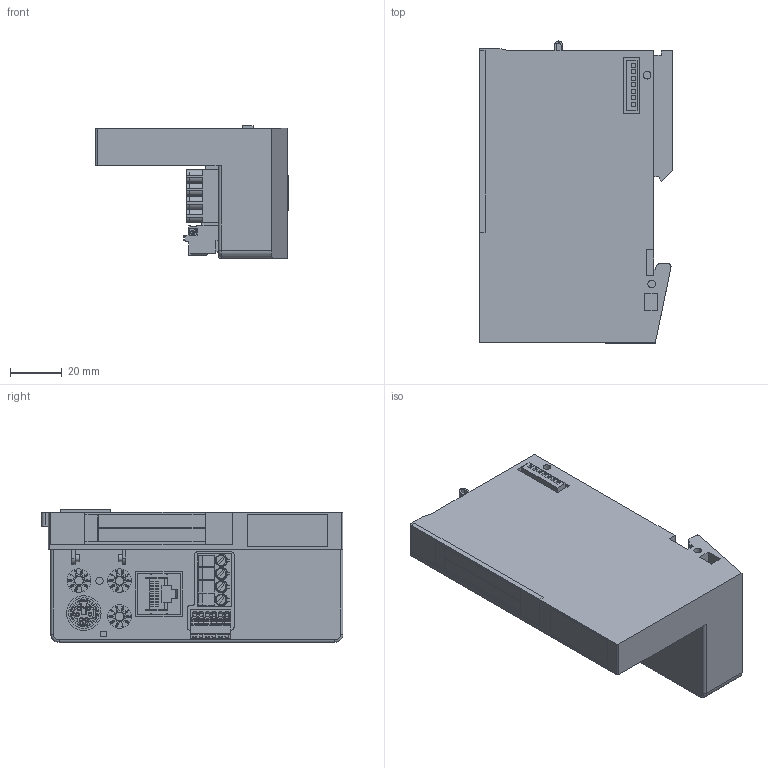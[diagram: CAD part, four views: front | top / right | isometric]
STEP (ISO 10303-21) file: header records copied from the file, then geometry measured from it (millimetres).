
FILE_DESCRIPTION((''),'2;1');
FILE_NAME('C:\TurckZip\BL20-PG-EN-DN-JA.stp','2008-08-29T11:49:48',('IKOROL'),(''),'Autodesk Inventor 2008','Autodesk Inventor 2008','');
FILE_SCHEMA(('CONFIG_CONTROL_DESIGN'));
Length unit declared in the file: millimetre
Products named in the file (1): Part3
Bounding box: 74.5 x 116.95 x 51.5 mm (x, y, z)
Volume: 202913.9 mm3; surface area: 43632.5 mm2
Topology: 7 solids, 7 shells, 1742 faces, 4493 edges, 2967 vertices
Faces by surface type: plane 1244, bspline 252, cylinder 223, cone 18, torus 5
Full cylindrical faces by diameter (mm): 0.457 x1, 1 x6, 1.3 x4, 1.5 x6, 1.6 x5, 2.75 x2, 2.839 x1, 2.996 x2, 3.3 x3, 3.85 x4, 4.5 x4, 9 x1, 9.2 x3, 9.5 x1, 10 x1, 10.5 x1, 11.8 x1, 12 x1, 12.8 x1, 13.4 x1
Entity records: 55319 total; most frequent: CARTESIAN_POINT 12606, ORIENTED_EDGE 8842, DIRECTION 7352, EDGE_CURVE 4421, VECTOR 3428, LINE 3428, VERTEX_POINT 2956, EDGE_LOOP 2023
